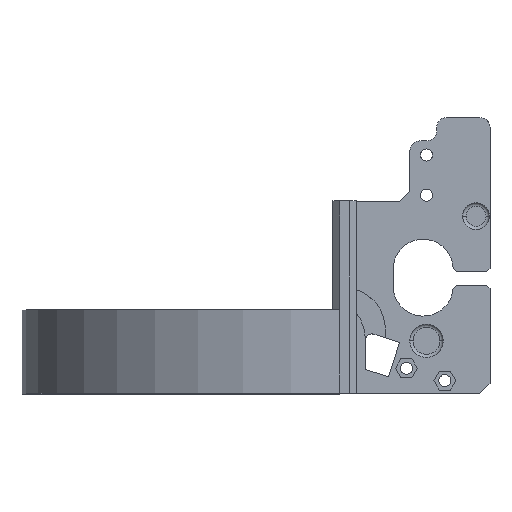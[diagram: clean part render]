
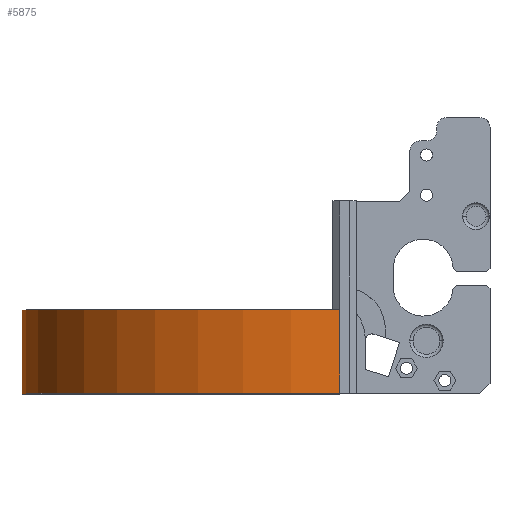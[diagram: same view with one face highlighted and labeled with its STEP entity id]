
A CAD part, top view. The second image highlights one B-rep face of the part: STEP entity #5875.
In plain terms, the highlighted cylindrical face has radius 87.361 mm (diameter 174.721 mm), a partial arc.
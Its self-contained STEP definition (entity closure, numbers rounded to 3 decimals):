
#183 = CARTESIAN_POINT ( 'NONE',  ( 0., 22.5, 45. ) ) ;
#501 = CARTESIAN_POINT ( 'NONE',  ( -95., 22.5, -42.026 ) ) ;
#657 = CARTESIAN_POINT ( 'NONE',  ( -95., 47.5, -42.026 ) ) ;
#915 = AXIS2_PLACEMENT_3D ( 'NONE', #2932, #1543, #4434 ) ;
#1137 = CARTESIAN_POINT ( 'NONE',  ( -7.639, 47.5, -42.026 ) ) ;
#1229 = EDGE_CURVE ( 'NONE', #4526, #3581, #3919, .T. ) ;
#1456 = ORIENTED_EDGE ( 'NONE', *, *, #3516, .T. ) ;
#1520 = CARTESIAN_POINT ( 'NONE',  ( -95., 47.5, -42.026 ) ) ;
#1532 = CIRCLE ( 'NONE', #5807, 87.361 ) ;
#1543 = DIRECTION ( 'NONE',  ( 0., 1., 0. ) ) ;
#1838 = ORIENTED_EDGE ( 'NONE', *, *, #2072, .F. ) ;
#1935 = CARTESIAN_POINT ( 'NONE',  ( 0., 47.5, 45. ) ) ;
#2072 = EDGE_CURVE ( 'NONE', #2598, #4526, #1532, .T. ) ;
#2239 = CARTESIAN_POINT ( 'NONE',  ( -7.639, 47.5, -42.026 ) ) ;
#2280 = ORIENTED_EDGE ( 'NONE', *, *, #1229, .F. ) ;
#2416 = AXIS2_PLACEMENT_3D ( 'NONE', #2239, #3650, #2750 ) ;
#2598 = VERTEX_POINT ( 'NONE', #657 ) ;
#2750 = DIRECTION ( 'NONE',  ( 0., 0., -1. ) ) ;
#2916 = DIRECTION ( 'NONE',  ( 0., -1., 0. ) ) ;
#2918 = VECTOR ( 'NONE', #4393, 1000. ) ;
#2932 = CARTESIAN_POINT ( 'NONE',  ( -7.639, 22.5, -42.026 ) ) ;
#3176 = VERTEX_POINT ( 'NONE', #501 ) ;
#3516 = EDGE_CURVE ( 'NONE', #3176, #3581, #5501, .T. ) ;
#3543 = DIRECTION ( 'NONE',  ( 0., 0., -1. ) ) ;
#3545 = VECTOR ( 'NONE', #2916, 1000. ) ;
#3565 = EDGE_CURVE ( 'NONE', #2598, #3176, #4389, .T. ) ;
#3581 = VERTEX_POINT ( 'NONE', #183 ) ;
#3650 = DIRECTION ( 'NONE',  ( 0., -1., 0. ) ) ;
#3911 = EDGE_LOOP ( 'NONE', ( #1456, #2280, #1838, #3941 ) ) ;
#3919 = LINE ( 'NONE', #1935, #3545 ) ;
#3941 = ORIENTED_EDGE ( 'NONE', *, *, #3565, .T. ) ;
#4354 = FACE_OUTER_BOUND ( 'NONE', #3911, .T. ) ;
#4389 = LINE ( 'NONE', #1520, #2918 ) ;
#4393 = DIRECTION ( 'NONE',  ( 0., -1., 0. ) ) ;
#4434 = DIRECTION ( 'NONE',  ( 0., 0., -1. ) ) ;
#4469 = DIRECTION ( 'NONE',  ( 0., 1., 0. ) ) ;
#4526 = VERTEX_POINT ( 'NONE', #5746 ) ;
#5501 = CIRCLE ( 'NONE', #915, 87.361 ) ;
#5746 = CARTESIAN_POINT ( 'NONE',  ( 0., 47.5, 45. ) ) ;
#5807 = AXIS2_PLACEMENT_3D ( 'NONE', #1137, #4469, #3543 ) ;
#5875 = ADVANCED_FACE ( 'NONE', ( #4354 ), #6129, .T. ) ;
#6129 = CYLINDRICAL_SURFACE ( 'NONE', #2416, 87.361 ) ;
